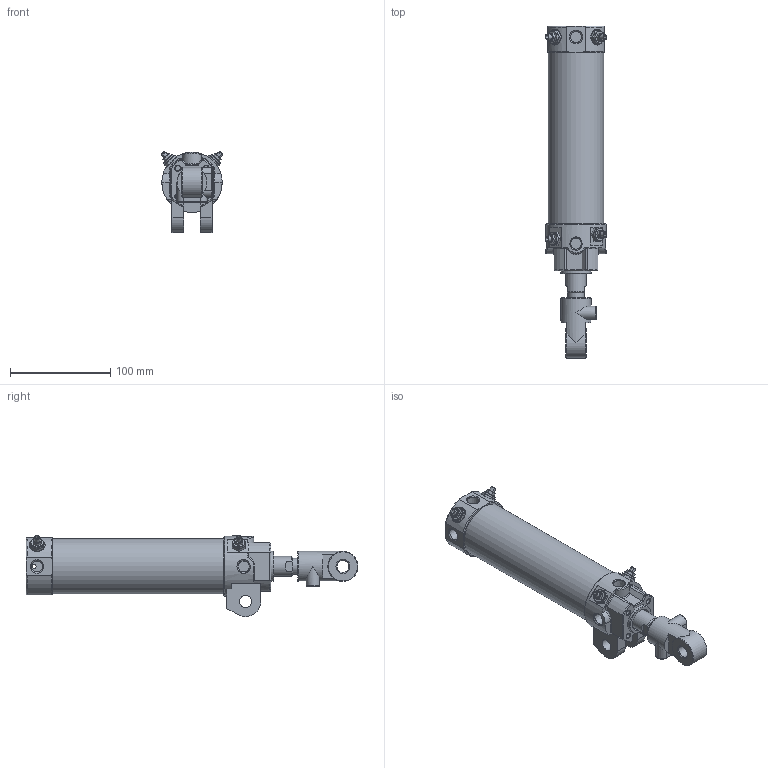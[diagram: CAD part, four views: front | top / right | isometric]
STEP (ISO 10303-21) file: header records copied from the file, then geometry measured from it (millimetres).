
FILE_DESCRIPTION((''),'2;1');
FILE_NAME('I:\3D電子目錄\氣缸\DCK\DCK\DCK-1B-50x125-I.stp','2008-02-26T14:23:43',('Administrator'),(''),'Autodesk Inventor 11','Autodesk Inventor 11','');
FILE_SCHEMA(('AUTOMOTIVE_DESIGN { 1 0 10303 214 1 1 1 1 }'));
Length unit declared in the file: millimetre
Products named in the file (6): DCK-1B-50-I; DCK-1A-50-I; 緩衝針; 緩衝針-1; 緩衝針-201; 緩衝針-3
Assembly tree (8 placements, depth 3):
  DCK-1B-50-I
    DCK-1A-50-I
    緩衝針  x4
      緩衝針-1
      緩衝針-201
      緩衝針-3
Bounding box: 61.76 x 331 x 80.87 mm (x, y, z)
Volume: 285199.7 mm3; surface area: 126656 mm2
Topology: 16 solids, 16 shells, 617 faces, 1375 edges, 859 vertices
Faces by surface type: plane 227, cylinder 180, cone 141, torus 35, bspline 34
Full cylindrical faces by diameter (mm): 2 x2, 3 x4, 3.8 x2, 4 x6, 4.6 x4, 5 x8, 5.1 x4, 5.2 x12, 5.5 x4, 7.25 x1, 7.9 x4, 8 x2, 10.3 x1, 11.3 x1, 12 x5, 12.8 x4, 16 x3, 20 x1, 21 x1, 22 x2, 23 x1, 24.7 x1, 26 x1, 27 x1, 28 x1, 29 x1, 30 x3, 33 x1, 49.5 x1, 52 x2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
Entity records: 12811 total; most frequent: CARTESIAN_POINT 5086, DIRECTION 1580, ORIENTED_EDGE 1388, EDGE_CURVE 694, AXIS2_PLACEMENT_3D 690, EDGE_LOOP 570, VERTEX_POINT 506, FACE_OUTER_BOUND 368
